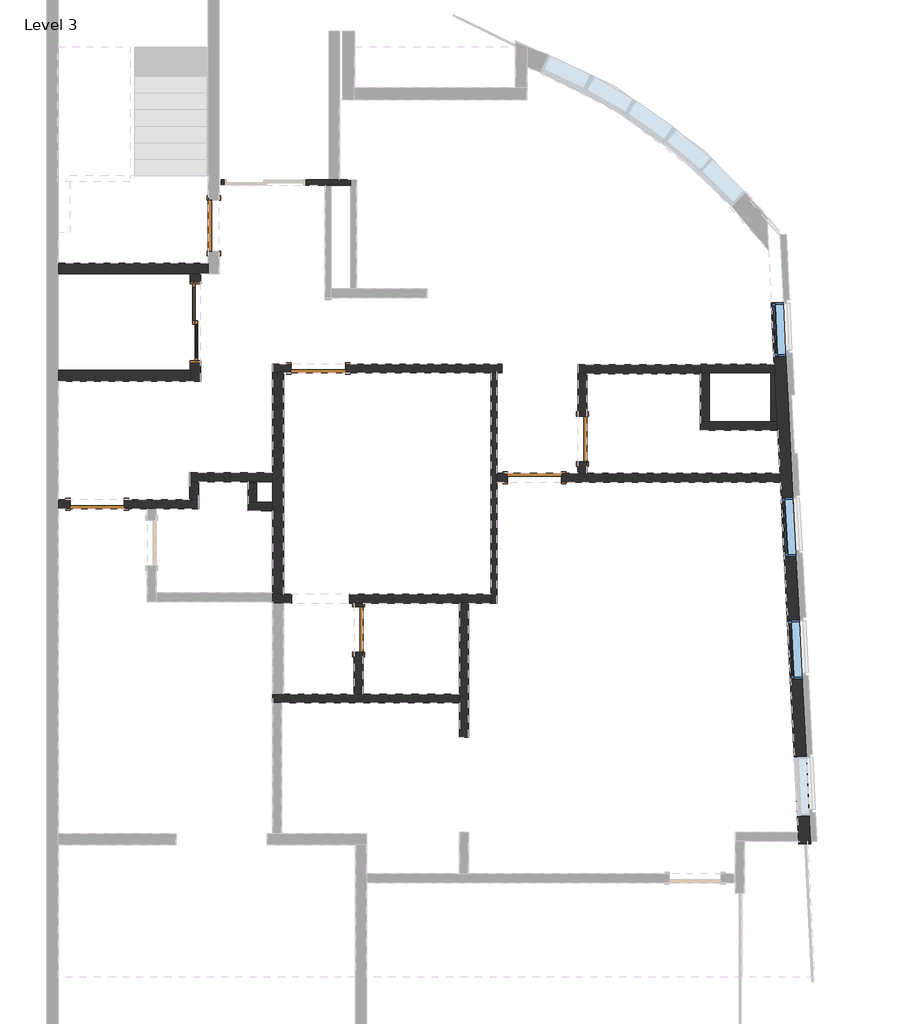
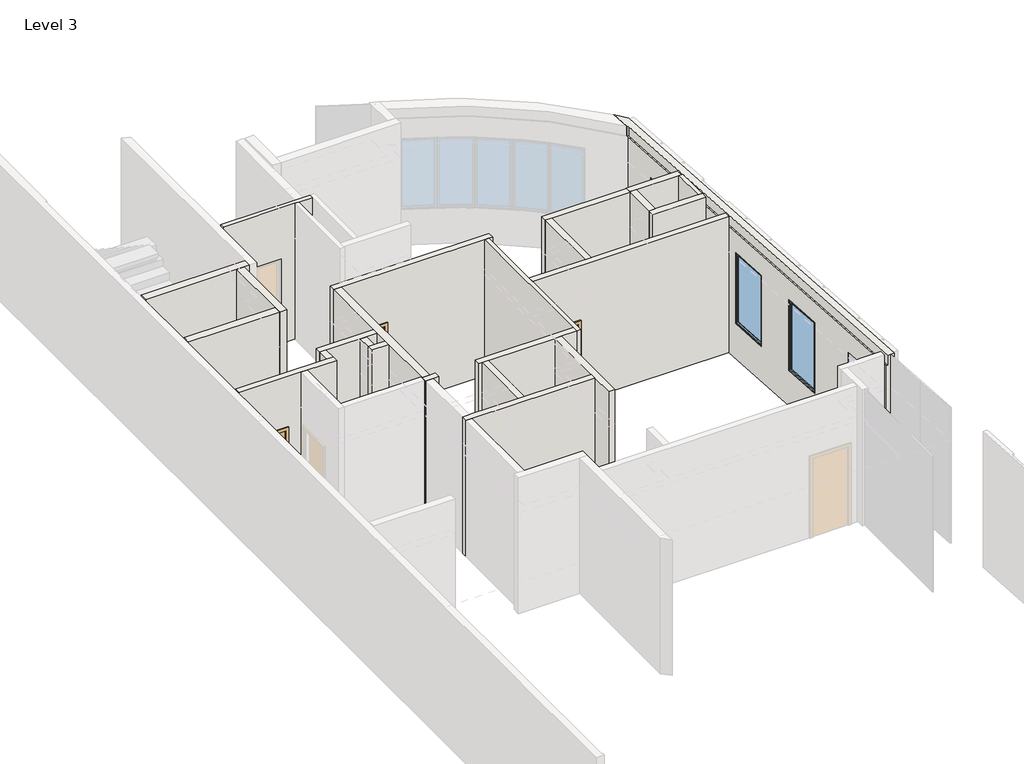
# One storey, part 3 of 5: 25 walls, 7 doors, 3 windows.
"""IFC4 building model written with IfcOpenShell, lengths in millimetres."""

from ifc_helpers import new_model, si_unit, frame, origin, place, context, project, spatial, polyline, circle_curve, outline, extrude, faceted_brep, transform, mapped, element, save
from ifc_brep_helpers import plane_surface, cylinder_surface, revolved_surface, advanced_brep
from components import m_single_flush_0762_x_2134mm_1533e4c5, m_single_flush_0762_x_2134mm_8c18b9de, m_single_flush_0864_x_2032mm_7823a673, m_single_flush_0915_x_2032mm_11c03dd0, m_single_flush_0915_x_2134mm_138fd904, sliding_door_2_panel_aus_f73f6a40, m_fixed_0915_x_1830mm_5d6e8bc1, m_fixed_1000_x_1830mm_2_3397196e

model = new_model("IFC4")

# Units and contexts
model_context = context("Model", 3, world=origin())
ifc_project = project(units=[si_unit("LENGTHUNIT", "METRE", prefix="MILLI")], contexts=[model_context])

# Site, building, storey
site = spatial("IfcSite", under=ifc_project)
building = spatial("IfcBuilding", under=site)
storey = spatial("IfcBuildingStorey", under=building, Name="Level 3", Elevation=11500.0)

# Doors
placement = place(None, origin())
m_single_flush_0762_x_2134mm_shape = m_single_flush_0762_x_2134mm_1533e4c5(model_context)
element("IfcDoor", 1, ObjectType="M_Single-Flush : 0762 x 2134mm", at=placement, inside=storey, context=model_context, shape_type="MappedRepresentation", body=[
    mapped(m_single_flush_0762_x_2134mm_shape, transform((8794.9578779, 5730.2927029, 11500.0), x_axis=(0.0, -1.0, 0.0), y_axis=(1.0, 0.0, 0.0), z_axis=(0.0, 0.0, 1.0))),
])
m_single_flush_0762_x_2134mm_2_shape = m_single_flush_0762_x_2134mm_8c18b9de(model_context)
element("IfcDoor", 2, ObjectType="M_Single-Flush : 0762 x 2134mm", at=placement, inside=storey, context=model_context, shape_type="MappedRepresentation", body=[
    mapped(m_single_flush_0762_x_2134mm_2_shape, transform((5014.9578779, 2515.8778064, 11500.0), x_axis=(0.0, 1.0, 0.0), y_axis=(-1.0, 0.0, 0.0), z_axis=(0.0, 0.0, 1.0))),
])
m_single_flush_0864_x_2032mm_shape = m_single_flush_0864_x_2032mm_7823a673(model_context)
element("IfcDoor", 3, ObjectType="M_Single-Flush : 0864 x 2032mm", at=placement, inside=storey, context=model_context, shape_type="MappedRepresentation", body=[
    mapped(m_single_flush_0864_x_2032mm_shape, transform((2571.8607589, 9328.8748746, 11500.0), x_axis=(0.0, -1.0, 0.0), y_axis=(1.0, 0.0, 0.0), z_axis=(0.0, 0.0, 1.0))),
])
m_single_flush_0915_x_2032mm_shape = m_single_flush_0915_x_2032mm_11c03dd0(model_context)
element("IfcDoor", 4, ObjectType="M_Single-Flush : 0915 x 2032mm", at=placement, inside=storey, context=model_context, shape_type="MappedRepresentation", body=[
    mapped(m_single_flush_0915_x_2032mm_shape, transform((7987.4578779, 5074.2927029, 11500.0), x_axis=(-1.0, 0.0, 0.0), y_axis=(0.0, -1.0, 0.0), z_axis=(0.0, 0.0, 1.0))),
])
m_single_flush_0915_x_2134mm_shape = m_single_flush_0915_x_2134mm_138fd904(model_context)
element("IfcDoor", 5, ObjectType="M_Single-Flush : 0915 x 2134mm", at=placement, inside=storey, context=model_context, shape_type="MappedRepresentation", body=[
    mapped(m_single_flush_0915_x_2134mm_shape, transform((607.4578696, 4631.8830582, 11500.0), x_axis=(-1.0, 0.0, 0.0), y_axis=(0.0, -1.0, 0.0), z_axis=(0.0, 0.0, 1.0))),
])
element("IfcDoor", 6, ObjectType="M_Single-Flush : 0915 x 2134mm", at=placement, inside=storey, context=model_context, shape_type="MappedRepresentation", body=[
    mapped(m_single_flush_0915_x_2134mm_shape, transform((4337.4578779, 6919.2927825, 11500.0), x_axis=(-1.0, 0.0, 0.0), y_axis=(0.0, -1.0, 0.0), z_axis=(0.0, 0.0, 1.0))),
])
sliding_door_2_panel_aus_shape = sliding_door_2_panel_aus_f73f6a40(model_context)
element("IfcDoor", 7, ObjectType="Sliding Door - 2 Panel (AUS) : elavator door", at=placement, inside=storey, context=model_context, shape_type="MappedRepresentation", body=[
    mapped(sliding_door_2_panel_aus_shape, transform((2260.0654712, 7782.6328884, 11500.0), x_axis=(0.0, -1.0, 0.0), y_axis=(1.0, 0.0, 0.0), z_axis=(0.0, 0.0, 1.0))),
])

# Walls
element("IfcWall", 8, ObjectType="Generic - 15cm-granit&gypsum", at=placement, inside=storey, context=model_context, shape_type="SweptSolid", body=[
    extrude(outline(polyline([(5349.2927029, 13634.0), (5349.2927029, 11500.0), (5149.2927029, 11500.0), (5149.2927029, 15000.0), (6830.3684627, 15000.0), (6830.3684627, 11500.0), (6111.2927029, 11500.0), (6111.2927029, 13634.0), (5349.2927029, 13634.0)])), frame((8719.9578779, 0.0, 0.0), z_axis=(1.0, 0.0, 0.0), x_axis=(0.0, 1.0, 0.0)), (0.0, 0.0, 1.0), 150.0),
])
element("IfcWall", 9, ObjectType="Generic - 15cm-gypsu-2boith", at=placement, inside=storey, context=model_context, shape_type="Brep", body=[
    faceted_brep([(12034.2942913, 6994.2927825, 11500.0), (10782.6929286, 6994.2927825, 11500.0), (10782.6929286, 6994.2927825, 15000.0), (12034.2942913, 6994.2927825, 15000.0), (12041.9294162, 6844.2927825, 11500.0), (12041.9294162, 6844.2927825, 15000.0), (11974.9265269, 6844.2927825, 15000.0), (10938.049349, 6844.2927825, 15000.0), (10788.049349, 6844.2927825, 15000.0), (10782.6929286, 6844.2927825, 15000.0), (10782.6929286, 6844.2927825, 11500.0), (10788.049349, 6844.2927825, 11500.0), (10938.049349, 6844.2927825, 11500.0), (11974.9265269, 6844.2927825, 11500.0), (10782.6929286, 6980.3684627, 11500.0), (10782.6929286, 6980.3684627, 15000.0)], [[[0, 1, 2, 3]], [[4, 5, 6, 7, 8, 9, 10, 11, 12, 13]], [[1, 0, 4, 13, 12, 11, 10, 14]], [[2, 1, 14, 10, 9, 15]], [[3, 2, 15, 9, 8, 7, 6, 5]], [[0, 3, 5, 4]]]),
])
element("IfcWall", 10, ObjectType="Generic - 15cm-granit&gypsum", at=placement, inside=storey, context=model_context, shape_type="Brep", body=[
    faceted_brep([(7529.9578779, 5149.2927029, 13532.0), (7529.9578779, 5149.2927029, 11500.0), (7349.9578779, 5149.2927029, 11500.0), (7349.9578779, 5149.2927029, 15000.0), (8719.9578779, 5149.2927029, 15000.0), (8869.9578779, 5149.2927029, 15000.0), (12128.2063311, 5149.2927029, 15000.0), (12128.2063311, 5149.2927029, 11500.0), (8869.9578779, 5149.2927029, 11500.0), (8719.9578779, 5149.2927029, 11500.0), (8444.9578779, 5149.2927029, 11500.0), (8444.9578779, 5149.2927029, 13532.0), (7349.9578779, 4999.2927029, 11500.0), (7529.9578779, 4999.2927029, 11500.0), (7529.9578779, 4999.2927029, 13532.0), (8444.9578779, 4999.2927029, 13532.0), (8444.9578779, 4999.2927029, 11500.0), (12135.8414559, 4999.2927029, 11500.0), (12135.8414559, 4999.2927029, 15000.0), (7349.9578779, 4999.2927029, 15000.0)], [[[0, 1, 2, 3, 4, 5, 6, 7, 8, 9, 10, 11]], [[12, 13, 14, 15, 16, 17, 18, 19]], [[2, 1, 13, 12]], [[10, 9, 8, 7, 17, 16]], [[6, 5, 4, 3, 19, 18]], [[7, 6, 18, 17]], [[3, 2, 12, 19]], [[14, 13, 1, 0]], [[15, 14, 0, 11]], [[16, 15, 11, 10]]]),
])
element("IfcWall", 11, ObjectType="Generic - 10cm-gypsu-2boith", at=placement, inside=storey, context=model_context, shape_type="Brep", body=[
    faceted_brep([(7249.9578779, 6844.2927825, 11500.0), (7249.9578779, 3106.8778064, 11500.0), (7249.9578779, 2956.8778064, 11500.0), (7249.9578779, 2956.8778064, 15000.0), (7249.9578779, 3106.8778064, 15000.0), (7249.9578779, 6844.2927825, 15000.0), (7349.9578779, 6844.2927825, 11500.0), (7349.9578779, 6844.2927825, 15000.0), (7349.9578779, 5149.2927029, 15000.0), (7349.9578779, 4999.2927029, 15000.0), (7349.9578779, 2956.8778064, 15000.0), (7349.9578779, 2956.8778064, 11500.0), (7349.9578779, 4999.2927029, 11500.0), (7349.9578779, 5149.2927029, 11500.0)], [[[0, 1, 2, 3, 4, 5]], [[6, 7, 8, 9, 10, 11, 12, 13]], [[2, 1, 0, 6, 13, 12, 11]], [[5, 4, 3, 10, 9, 8, 7]], [[3, 2, 11, 10]], [[0, 5, 7, 6]]]),
])
element("IfcWall", 12, ObjectType="Generic - 15cm-granit&gypsum", at=placement, inside=storey, context=model_context, shape_type="Brep", body=[
    faceted_brep([(7249.9578779, 3106.8778064, 11500.0), (4862.6578779, 3106.8778064, 11500.0), (4862.6578779, 3106.8778064, 15000.0), (7249.9578779, 3106.8778064, 15000.0), (7249.9578779, 2956.8778064, 11500.0), (7249.9578779, 2956.8778064, 15000.0), (6869.9578779, 2956.8778064, 15000.0), (6719.9578779, 2956.8778064, 15000.0), (5089.9578779, 2956.8778064, 15000.0), (4939.9578779, 2956.8778064, 15000.0), (4862.6578779, 2956.8778064, 15000.0), (4862.6578779, 2956.8778064, 11500.0), (4939.9578779, 2956.8778064, 11500.0), (5089.9578779, 2956.8778064, 11500.0), (6719.9578779, 2956.8778064, 11500.0), (6869.9578779, 2956.8778064, 11500.0)], [[[0, 1, 2, 3]], [[4, 5, 6, 7, 8, 9, 10, 11, 12, 13, 14, 15]], [[1, 0, 4, 15, 14, 13, 12, 11]], [[2, 1, 11, 10]], [[3, 2, 10, 9, 8, 7, 6, 5]], [[0, 3, 5, 4]]]),
])
element("IfcWall", 13, ObjectType="Generic - 15cm-granit&gypsum", at=placement, inside=storey, context=model_context, shape_type="Brep", body=[
    faceted_brep([(6719.9578779, 1426.8778064, 11500.0), (5089.9578779, 1426.8778064, 11500.0), (4939.9578779, 1426.8778064, 11500.0), (3749.9578779, 1426.8778064, 11500.0), (3569.9578779, 1426.8778064, 11500.0), (3569.9578779, 1426.8778064, 15000.0), (3749.9578779, 1426.8778064, 15000.0), (4939.9578779, 1426.8778064, 15000.0), (5089.9578779, 1426.8778064, 15000.0), (6719.9578779, 1426.8778064, 15000.0), (6719.9578779, 1276.8778064, 11500.0), (6719.9578779, 1276.8778064, 15000.0), (3719.9578779, 1276.8778064, 15000.0), (3569.9578779, 1276.8778064, 15000.0), (3569.9578779, 1276.8778064, 11500.0), (3719.9578779, 1276.8778064, 11500.0)], [[[0, 1, 2, 3, 4, 5, 6, 7, 8, 9]], [[10, 11, 12, 13, 14, 15]], [[4, 3, 2, 1, 0, 10, 15, 14]], [[9, 8, 7, 6, 5, 13, 12, 11]], [[0, 9, 11, 10]], [[5, 4, 14, 13]]]),
])
element("IfcWall", 14, ObjectType="Generic - 15cm-granit&gypsum", at=placement, inside=storey, context=model_context, shape_type="Brep", body=[
    faceted_brep([(6719.9578779, 2956.8778064, 11500.0), (6719.9578779, 1426.8778064, 11500.0), (6719.9578779, 1276.8778064, 11500.0), (6719.9578779, 696.0452702, 11500.0), (6719.9578779, 696.0452702, 15000.0), (6719.9578779, 1276.8778064, 15000.0), (6719.9578779, 1426.8778064, 15000.0), (6719.9578779, 2956.8778064, 15000.0), (6869.9578779, 2956.8778064, 11500.0), (6869.9578779, 2956.8778064, 15000.0), (6869.9578779, 696.0452702, 15000.0), (6869.9578779, 696.0452702, 11500.0)], [[[0, 1, 2, 3, 4, 5, 6, 7]], [[8, 9, 10, 11]], [[3, 2, 1, 0, 8, 11]], [[4, 3, 11, 10]], [[7, 6, 5, 4, 10, 9]], [[0, 7, 9, 8]]]),
])
element("IfcWall", 15, ObjectType="Generic - 18cm-gypsu-2boith 2", at=placement, inside=storey, context=model_context, shape_type="Brep", body=[
    faceted_brep([(3569.9578779, 6844.2927825, 11500.0), (3569.9578779, 5156.8860701, 11500.0), (3569.9578779, 5006.8860701, 11500.0), (3569.9578779, 4666.8864855, 11500.0), (3569.9578779, 4516.8864855, 11500.0), (3569.9578779, 3106.8778064, 11500.0), (3569.9578779, 3106.8778064, 15000.0), (3569.9578779, 4516.8864855, 15000.0), (3569.9578779, 4666.8864855, 15000.0), (3569.9578779, 5006.8860701, 15000.0), (3569.9578779, 5156.8860701, 15000.0), (3569.9578779, 6844.2927825, 15000.0), (3749.9578779, 6844.2927825, 11500.0), (3749.9578779, 6844.2927825, 15000.0), (3749.9578779, 3106.8778064, 15000.0), (3749.9578779, 3106.8778064, 11500.0)], [[[0, 1, 2, 3, 4, 5, 6, 7, 8, 9, 10, 11]], [[12, 13, 14, 15]], [[5, 4, 3, 2, 1, 0, 12, 15]], [[11, 10, 9, 8, 7, 6, 14, 13]], [[6, 5, 15, 14]], [[0, 11, 13, 12]]]),
])
element("IfcWall", 16, ObjectType="Generic - 10cm-gypsu-2boith", at=placement, inside=storey, context=model_context, shape_type="Brep", body=[
    faceted_brep([(2699.9587442, 10106.8748959, 11500.0), (2699.9587442, 10106.8748959, 15000.0), (4519.9587688, 10106.8748959, 15000.0), (4699.9587688, 10106.8748959, 15000.0), (4879.9402277, 10106.8748959, 15000.0), (4879.9402277, 10106.8748959, 11500.0), (4699.9587688, 10106.8748959, 11500.0), (4519.9587688, 10106.8748959, 11500.0), (4129.6769958, 10106.8748959, 11500.0), (4129.6769958, 10106.8748959, 13683.0), (2749.6769958, 10106.8748959, 13683.0), (2749.6769958, 10106.8748959, 11500.0), (2699.9587442, 10006.8748959, 15000.0), (2699.9587442, 10006.8748959, 11500.0), (2749.6769958, 10006.8748959, 11500.0), (2749.6769958, 10006.8748959, 13683.0), (4129.6769958, 10006.8748959, 13683.0), (4129.6769958, 10006.8748959, 11500.0), (4449.2779066, 10006.8748959, 11500.0), (4549.2779066, 10006.8748959, 11500.0), (4879.9402277, 10006.8748959, 11500.0), (4879.9402277, 10006.8748959, 15000.0), (4549.2779066, 10006.8748959, 15000.0), (4449.2779066, 10006.8748959, 15000.0)], [[[0, 1, 2, 3, 4, 5, 6, 7, 8, 9, 10, 11]], [[12, 13, 14, 15, 16, 17, 18, 19, 20, 21, 22, 23]], [[13, 0, 11, 14]], [[5, 20, 19, 18, 17, 8, 7, 6]], [[1, 0, 13, 12]], [[4, 3, 2, 1, 12, 23, 22, 21]], [[5, 4, 21, 20]], [[16, 9, 8, 17]], [[9, 16, 15, 10]], [[10, 15, 14, 11]]]),
])
element("IfcWall", 17, ObjectType="Generic - 18cm-gypsu-2boith 2", at=placement, inside=storey, context=model_context, shape_type="SweptSolid", body=[
    extrude(outline(polyline([(-50.0421304, 8696.8748746), (2481.8607589, 8696.8748746), (2481.8607589, 8516.8748746), (-50.0421304, 8516.8748746), (-50.0421304, 8696.8748746)])), frame((0.0, 0.0, 11500.0), z_axis=(0.0, 0.0, 1.0), x_axis=(1.0, 0.0, 0.0)), (0.0, 0.0, 1.0), 3500.0),
])
element("IfcWall", 18, ObjectType="Generic - 18cm-gypsu-2boith 2", at=placement, inside=storey, context=model_context, shape_type="Brep", body=[
    faceted_brep([(2170.0654712, 6706.8748838, 15000.0), (2170.0654712, 6886.8748838, 15000.0), (2170.0654712, 8506.8748906, 15000.0), (2170.0654712, 8506.8748906, 11500.0), (2170.0654712, 8386.8748872, 11500.0), (2170.0654712, 8386.8748872, 13683.0), (2170.0654712, 7006.8748872, 13683.0), (2170.0654712, 7006.8748872, 11500.0), (2170.0654712, 6886.8748838, 11500.0), (2170.0654712, 6706.8748838, 11500.0), (2350.0654712, 8506.8748906, 15000.0), (2350.0654712, 6706.8748838, 15000.0), (2350.0654712, 6706.8748838, 11500.0), (2350.0654712, 7006.8748872, 11500.0), (2350.0654712, 7006.8748872, 13683.0), (2350.0654712, 8386.8748872, 13683.0), (2350.0654712, 8386.8748872, 11500.0), (2350.0654712, 8506.8748906, 11500.0)], [[[0, 1, 2, 3, 4, 5, 6, 7, 8, 9]], [[10, 11, 12, 13, 14, 15, 16, 17]], [[3, 17, 16, 4]], [[12, 9, 8, 7, 13]], [[2, 1, 0, 11, 10]], [[3, 2, 10, 17]], [[0, 9, 12, 11]], [[15, 5, 4, 16]], [[5, 15, 14, 6]], [[6, 14, 13, 7]]]),
])
element("IfcWall", 19, ObjectType="Generic - 18cm-gypsu-2boith 2", at=placement, inside=storey, context=model_context, shape_type="SweptSolid", body=[
    extrude(outline(polyline([(-50.0421304, 6886.8748838), (2170.0654712, 6886.8748838), (2170.0654712, 6706.8748838), (-50.0421304, 6706.8748838), (-50.0421304, 6886.8748838)])), frame((0.0, 0.0, 11500.0), z_axis=(0.0, 0.0, 1.0), x_axis=(1.0, 0.0, 0.0)), (0.0, 0.0, 1.0), 3500.0),
])
element("IfcWall", 20, ObjectType="Generic - 15cm-granit&gypsum", at=placement, inside=storey, context=model_context, shape_type="Brep", body=[
    faceted_brep([(12077.3702251, 6025.0705769, 11500.0), (12074.9265269, 6025.0705769, 11500.0), (11974.9265269, 6025.0705769, 11500.0), (10938.049349, 6025.0705769, 11500.0), (10788.049349, 6025.0705769, 11500.0), (10788.049349, 6025.0705769, 15000.0), (10938.049349, 6025.0705769, 15000.0), (11974.9265269, 6025.0705769, 15000.0), (12074.9265269, 6025.0705769, 15000.0), (12077.3702251, 6025.0705769, 15000.0), (12077.3702251, 5875.0705769, 11500.0), (12077.3702251, 5875.0705769, 15000.0), (10788.049349, 5875.0705769, 15000.0), (10788.049349, 5875.0705769, 11500.0)], [[[0, 1, 2, 3, 4, 5, 6, 7, 8, 9]], [[10, 11, 12, 13]], [[4, 3, 2, 1, 0, 10, 13]], [[9, 8, 7, 6, 5, 12, 11]], [[0, 9, 11, 10]], [[5, 4, 13, 12]]]),
])
element("IfcWall", 21, ObjectType="Generic - 15cm-granit&gypsum", at=placement, inside=storey, context=model_context, shape_type="SweptSolid", body=[
    extrude(outline(polyline([(10938.049349, 6844.2927825), (10938.049349, 6025.0705769), (10788.049349, 6025.0705769), (10788.049349, 6844.2927825), (10938.049349, 6844.2927825)])), frame((0.0, 0.0, 11500.0), z_axis=(0.0, 0.0, 1.0), x_axis=(1.0, 0.0, 0.0)), (0.0, 0.0, 1.0), 3500.0),
])
element("IfcWall", 22, ObjectType="Generic - 10cm-gypsu-2boith", at=placement, inside=storey, context=model_context, shape_type="Brep", body=[
    faceted_brep([(12074.9265269, 6025.0705769, 11500.0), (12074.9265269, 6844.2927825, 11500.0), (12074.9265269, 6844.2927825, 15000.0), (12074.9265269, 6025.0705769, 15000.0), (11974.9265269, 6025.0705769, 11500.0), (11974.9265269, 6025.0705769, 15000.0), (11974.9265269, 6844.2927825, 15000.0), (11974.9265269, 6844.2927825, 11500.0), (12041.9294162, 6844.2927825, 11500.0), (12041.9294162, 6844.2927825, 15000.0)], [[[0, 1, 2, 3]], [[4, 5, 6, 7]], [[1, 0, 4, 7, 8]], [[3, 2, 9, 6, 5]], [[0, 3, 5, 4]], [[2, 1, 8, 7, 6, 9]]]),
])
element("IfcWall", 23, ObjectType="Generic - 15cm-granit&gypsum", at=placement, inside=storey, context=model_context, shape_type="SweptSolid", body=[
    extrude(outline(polyline([(2956.8778064, 11500.0), (2896.8778064, 11500.0), (2896.8778064, 13634.0), (2134.8778064, 13634.0), (2134.8778064, 11500.0), (1426.8778064, 11500.0), (1426.8778064, 15000.0), (2956.8778064, 15000.0), (2956.8778064, 11500.0)])), frame((4939.9578779, 0.0, 0.0), z_axis=(1.0, 0.0, 0.0), x_axis=(0.0, 1.0, 0.0)), (0.0, 0.0, 1.0), 150.0),
])
element("IfcWall", 24, ObjectType="Generic - 15cm-granit&gypsum", at=placement, inside=storey, context=model_context, shape_type="Brep", body=[
    faceted_brep([(-50.0421304, 4556.8830582, 11500.0), (149.9578696, 4556.8830582, 11500.0), (149.9578696, 4556.8830582, 13634.0), (1064.9578696, 4556.8830582, 13634.0), (1064.9578696, 4556.8830582, 11500.0), (1449.9578776, 4556.8830582, 11500.0), (1599.9578776, 4556.8830582, 11500.0), (2319.9578779, 4556.8830582, 11500.0), (2319.9578779, 4556.8830582, 15000.0), (1599.9578776, 4556.8830582, 15000.0), (1449.9578776, 4556.8830582, 15000.0), (-50.0421304, 4556.8830582, 15000.0), (149.9578696, 4706.8830582, 13634.0), (149.9578696, 4706.8830582, 11500.0), (-50.0421304, 4706.8830582, 11500.0), (-50.0421304, 4706.8830582, 15000.0), (2169.9578779, 4706.8830582, 15000.0), (2319.9578779, 4706.8830582, 15000.0), (2319.9578779, 4706.8830582, 11500.0), (2169.9578779, 4706.8830582, 11500.0), (1064.9578696, 4706.8830582, 11500.0), (1064.9578696, 4706.8830582, 13634.0)], [[[0, 1, 2, 3, 4, 5, 6, 7, 8, 9, 10, 11]], [[12, 13, 14, 15, 16, 17, 18, 19, 20, 21]], [[14, 13, 1, 0]], [[20, 19, 18, 7, 6, 5, 4]], [[11, 10, 9, 8, 17, 16, 15]], [[0, 11, 15, 14]], [[8, 7, 18, 17]], [[2, 1, 13, 12]], [[3, 2, 12, 21]], [[4, 3, 21, 20]]]),
])
element("IfcWall", 25, ObjectType="Generic - 15cm-granit&gypsum", at=placement, inside=storey, context=model_context, shape_type="Brep", body=[
    faceted_brep([(2169.9578779, 5006.8860701, 11500.0), (2319.9578779, 5006.8860701, 11500.0), (3569.9578779, 5006.8860701, 11500.0), (3569.9578779, 5006.8860701, 15000.0), (2319.9578779, 5006.8860701, 15000.0), (2169.9578779, 5006.8860701, 15000.0), (2169.9578779, 5156.8860701, 11500.0), (2169.9578779, 5156.8860701, 15000.0), (3569.9578779, 5156.8860701, 15000.0), (3569.9578779, 5156.8860701, 11500.0)], [[[0, 1, 2, 3, 4, 5]], [[6, 7, 8, 9]], [[2, 1, 0, 6, 9]], [[5, 4, 3, 8, 7]], [[0, 5, 7, 6]], [[3, 2, 9, 8]]]),
])
element("IfcWall", 26, ObjectType="Generic - 15cm-granit&gypsum", at=placement, inside=storey, context=model_context, shape_type="SweptSolid", body=[
    extrude(outline(polyline([(2319.9578779, 5006.8860701), (2319.9578779, 4706.8830582), (2169.9578779, 4706.8830582), (2169.9578779, 5006.8860701), (2319.9578779, 5006.8860701)])), frame((0.0, 0.0, 11500.0), z_axis=(0.0, 0.0, 1.0), x_axis=(1.0, 0.0, 0.0)), (0.0, 0.0, 1.0), 3500.0),
])
element("IfcWall", 27, ObjectType="Generic - 15cm-granit&gypsum", at=placement, inside=storey, context=model_context, shape_type="Brep", body=[
    faceted_brep([(3149.9574416, 4516.8864855, 11500.0), (3569.9578779, 4516.8864855, 11500.0), (3569.9578779, 4516.8864855, 15000.0), (3149.9574416, 4516.8864855, 15000.0), (3149.9574416, 4666.8864855, 11500.0), (3149.9574416, 4666.8864855, 15000.0), (3299.9574416, 4666.8864855, 15000.0), (3569.9578779, 4666.8864855, 15000.0), (3569.9578779, 4666.8864855, 11500.0), (3299.9574416, 4666.8864855, 11500.0)], [[[0, 1, 2, 3]], [[4, 5, 6, 7, 8, 9]], [[1, 0, 4, 9, 8]], [[3, 2, 7, 6, 5]], [[2, 1, 8, 7]], [[0, 3, 5, 4]]]),
])
element("IfcWall", 28, ObjectType="Generic - 15cm-granit&gypsum", at=placement, inside=storey, context=model_context, shape_type="SweptSolid", body=[
    extrude(outline(polyline([(3149.9574416, 4666.8864855), (3149.9574416, 4986.8860701), (3299.9574416, 4986.8860701), (3299.9574416, 4666.8864855), (3149.9574416, 4666.8864855)])), frame((0.0, 0.0, 11500.0), z_axis=(0.0, 0.0, 1.0), x_axis=(1.0, 0.0, 0.0)), (0.0, 0.0, 1.0), 3500.0),
])
element("IfcWall", 29, ObjectType="Generic - 15cm-gypsu-2boith", at=placement, inside=storey, context=model_context, shape_type="Brep", body=[
    faceted_brep([(3879.9578779, 6994.2927825, 13634.0), (3879.9578779, 6994.2927825, 11500.0), (3569.9578779, 6994.2927825, 11500.0), (3569.9578779, 6994.2927825, 15000.0), (7439.9578779, 6994.2927825, 15000.0), (7439.9578779, 6994.2927825, 11500.0), (4794.9578779, 6994.2927825, 11500.0), (4794.9578779, 6994.2927825, 13634.0), (3569.9578779, 6844.2927825, 11500.0), (3749.9578779, 6844.2927825, 11500.0), (3879.9578779, 6844.2927825, 11500.0), (3879.9578779, 6844.2927825, 13634.0), (4794.9578779, 6844.2927825, 13634.0), (4794.9578779, 6844.2927825, 11500.0), (7249.9578779, 6844.2927825, 11500.0), (7349.9578779, 6844.2927825, 11500.0), (7439.9578779, 6844.2927825, 11500.0), (7439.9578779, 6844.2927825, 15000.0), (7349.9578779, 6844.2927825, 15000.0), (7249.9578779, 6844.2927825, 15000.0), (3749.9578779, 6844.2927825, 15000.0), (3569.9578779, 6844.2927825, 15000.0)], [[[0, 1, 2, 3, 4, 5, 6, 7]], [[8, 9, 10, 11, 12, 13, 14, 15, 16, 17, 18, 19, 20, 21]], [[6, 5, 16, 15, 14, 13]], [[2, 1, 10, 9, 8]], [[4, 3, 21, 20, 19, 18, 17]], [[5, 4, 17, 16]], [[11, 10, 1, 0]], [[12, 11, 0, 7]], [[13, 12, 7, 6]], [[3, 2, 8, 21]]]),
])
element("IfcWall", 30, ObjectType="Generic - 15cm-granit&gypsum", at=placement, inside=storey, context=model_context, shape_type="Brep", body=[
    faceted_brep([(8719.9578779, 6830.3684627, 11500.0), (8869.9578779, 6830.3684627, 11500.0), (10782.6929286, 6830.3684627, 11500.0), (10782.6929286, 6830.3684627, 15000.0), (8869.9578779, 6830.3684627, 15000.0), (8719.9578779, 6830.3684627, 15000.0), (8719.9578779, 6980.3684627, 11500.0), (8719.9578779, 6980.3684627, 15000.0), (10782.6929286, 6980.3684627, 15000.0), (10782.6929286, 6980.3684627, 11500.0), (10782.6929286, 6844.2927825, 11500.0), (10782.6929286, 6844.2927825, 15000.0)], [[[0, 1, 2, 3, 4, 5]], [[6, 7, 8, 9]], [[2, 1, 0, 6, 9, 10]], [[3, 2, 10, 9, 8, 11]], [[5, 4, 3, 11, 8, 7]], [[0, 5, 7, 6]]]),
])
element("IfcWall", 31, ObjectType="Generic - 15cm-granit&gypsum", at=placement, inside=storey, context=model_context, shape_type="Brep", body=[
    faceted_brep([(3887.2578779, 3106.8778064, 11500.0), (3749.9578779, 3106.8778064, 11500.0), (3569.9578779, 3106.8778064, 11500.0), (3569.9578779, 3106.8778064, 15000.0), (3749.9578779, 3106.8778064, 15000.0), (3887.2578779, 3106.8778064, 15000.0), (3887.2578779, 2956.8778064, 11500.0), (3887.2578779, 2956.8778064, 15000.0), (3749.9578779, 2956.8778064, 15000.0), (3569.9578779, 2956.8778064, 15000.0), (3569.9578779, 2956.8778064, 11500.0), (3749.9578779, 2956.8778064, 11500.0)], [[[0, 1, 2, 3, 4, 5]], [[6, 7, 8, 9, 10, 11]], [[2, 1, 0, 6, 11, 10]], [[5, 4, 3, 9, 8, 7]], [[0, 5, 7, 6]], [[3, 2, 10, 9]]]),
])
element("IfcWall", 32, ObjectType="Generic - 20cm-gypsum", at=placement, inside=storey, context=model_context, shape_type="AdvancedBrep", body=[
    advanced_brep(
    [(11908.3121492, 9469.3435074, 11500.0), (11936.5482631, 8914.6155682, 11500.0), (12034.2942913, 6994.2927825, 11500.0), (12041.9294162, 6844.2927825, 11500.0), (12128.2063311, 5149.2927029, 11500.0), (12135.8414559, 4999.2927029, 11500.0), (12446.8232818, -1110.2699756, 11500.0), (12446.8232818, -1110.2699756, 14759.0), (11936.5482631, 8914.6155682, 14759.0), (11933.8152789, 8968.3078963, 14759.0), (11933.8152789, 8968.3078963, 15000.0), (11908.3121492, 9469.3435074, 15000.0), (11908.3121492, 9469.3435074, 14245.0), (11910.4512496, 9427.3186475, 14245.0), (11910.4512496, 9427.3186475, 14195.0), (11908.3121492, 9469.3435074, 14195.0), (11908.3121492, 9469.3435074, 12425.0), (11910.4512496, 9427.3186475, 12425.0), (11910.4512496, 9427.3186475, 12375.0), (11908.3121492, 9469.3435074, 12375.0), (12422.6623613, -635.6034658, 12400.0), (12371.8273404, 363.1035987, 12400.0), (12371.8273404, 363.1035987, 14230.0), (12422.6623613, -635.6034658, 14230.0), (12305.2334631, 1671.4098532, 12400.0), (12254.3984422, 2670.1169177, 12400.0), (12254.3984422, 2670.1169177, 14230.0), (12305.2334631, 1671.4098532, 14230.0), (12200.0049698, 3738.7334766, 12400.0), (12149.1699489, 4737.4405411, 12400.0), (12149.1699489, 4737.4405411, 14230.0), (12200.0049698, 3738.7334766, 14230.0), (12028.2494319, 7113.0503572, 12400.0), (11981.7353878, 8026.8673212, 12400.0), (11981.7353878, 8026.8673212, 14230.0), (12028.2494319, 7113.0503572, 14230.0), (12646.5646947, -1100.1029714, 11500.0), (12122.2974145, 9199.675158, 11500.0), (12122.2974145, 9199.675158, 12375.0), (12124.5482533, 9155.45508, 12375.0), (12124.5482533, 9155.45508, 12425.0), (12122.2974145, 9199.675158, 12425.0), (12122.2974145, 9199.675158, 14195.0), (12124.5482533, 9155.45508, 14195.0), (12124.5482533, 9155.45508, 14245.0), (12122.2974145, 9199.675158, 14245.0), (12122.2974145, 9199.675158, 15000.0), (12646.5646947, -1100.1029714, 15000.0), (12571.5687533, 373.2706029, 12400.0), (12622.4037742, -625.4364616, 12400.0), (12622.4037742, -625.4364616, 14230.0), (12571.5687533, 373.2706029, 14230.0), (12454.1398551, 2680.2839218, 12400.0), (12504.974876, 1681.5768573, 12400.0), (12504.974876, 1681.5768573, 14230.0), (12454.1398551, 2680.2839218, 14230.0), (12348.9113618, 4747.6075453, 12400.0), (12399.7463827, 3748.9004808, 12400.0), (12399.7463827, 3748.9004808, 14230.0), (12348.9113618, 4747.6075453, 14230.0), (12181.4768007, 8037.0343254, 12400.0), (12227.9908448, 7123.2173614, 12400.0), (12227.9908448, 7123.2173614, 14230.0), (12181.4768007, 8037.0343254, 14230.0), (12476.7844937, -1108.7449249, 15000.0), (12476.7844937, -1108.7449249, 14759.0), (11966.0468245, 8925.2298708, 15000.0), (11966.0468245, 8925.2298708, 14759.0)],
    [
        (0, 1),
        (1, 2),
        (2, 3),
        (3, 4),
        (4, 5),
        (5, 6),
        (6, 7),
        (7, 8),
        (8, 9),
        (9, 10),
        (10, 11),
        (11, 12),
        (12, 13),
        (13, 14),
        (14, 15),
        (15, 16),
        (16, 17),
        (17, 18),
        (18, 19),
        (19, 0),
        (20, 21),
        (21, 22),
        (22, 23),
        (23, 20),
        (24, 25),
        (25, 26),
        (26, 27),
        (27, 24),
        (28, 29),
        (29, 30),
        (30, 31),
        (31, 28),
        (32, 33),
        (33, 34),
        (34, 35),
        (35, 32),
        (36, 37),
        (37, 38),
        (38, 39),
        (39, 40),
        (40, 41),
        (41, 42),
        (42, 43),
        (43, 44),
        (44, 45),
        (45, 46),
        (46, 47),
        (47, 36),
        (48, 49),
        (49, 50),
        (50, 51),
        (51, 48),
        (52, 53),
        (53, 54),
        (54, 55),
        (55, 52),
        (56, 57),
        (57, 58),
        (58, 59),
        (59, 56),
        (60, 61),
        (61, 62),
        (62, 63),
        (63, 60),
        (48, 21),
        (20, 49),
        (51, 22),
        (50, 23),
        (52, 25),
        (24, 53),
        (55, 26),
        (54, 27),
        (56, 29),
        (28, 57),
        (59, 30),
        (58, 31),
        (60, 33),
        (32, 61),
        (63, 34),
        (62, 35),
        (0, 37, circle_curve(frame((4535.6080259, 3399.2748166, 11500.0), z_axis=(0.0, 0.0, -1.0), x_axis=(0.7954529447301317, 0.6060153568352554, 0.0)), 9550.0)),
        (36, 6),
        (47, 64),
        (64, 65),
        (65, 7),
        (46, 11, circle_curve(frame((4535.6080259, 3399.2748166, 15000.0), z_axis=(0.0, 0.0, 1.0), x_axis=(0.7954529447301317, 0.6060153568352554, 0.0)), 9550.0)),
        (10, 66, circle_curve(frame((4535.6080259, 3399.2748166, 15000.0), z_axis=(0.0, 0.0, -1.0), x_axis=(1.0, 0.0, 0.0)), 9260.0)),
        (66, 64),
        (45, 12, circle_curve(frame((4535.6080259, 3399.2748166, 14245.0), z_axis=(0.0, 0.0, 1.0), x_axis=(0.7954529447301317, 0.6060153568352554, 0.0)), 9550.0)),
        (19, 38, circle_curve(frame((4535.6080259, 3399.2748166, 12375.0), z_axis=(0.0, 0.0, -1.0), x_axis=(0.7954529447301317, 0.6060153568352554, 0.0)), 9550.0)),
        (41, 16, circle_curve(frame((4535.6080259, 3399.2748166, 12425.0), z_axis=(0.0, 0.0, 1.0), x_axis=(0.7954529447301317, 0.6060153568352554, 0.0)), 9550.0)),
        (15, 42, circle_curve(frame((4535.6080259, 3399.2748166, 14195.0), z_axis=(0.0, 0.0, -1.0), x_axis=(0.7954529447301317, 0.6060153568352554, 0.0)), 9550.0)),
        (40, 17, circle_curve(frame((4535.6080259, 3399.2748166, 12425.0), z_axis=(0.0, 0.0, 1.0), x_axis=(0.32740306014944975, 0.9448847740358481, 0.0)), 9525.0)),
        (18, 39, circle_curve(frame((4535.6080259, 3399.2748166, 12375.0), z_axis=(0.0, 0.0, -1.0), x_axis=(0.32740306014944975, 0.9448847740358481, 0.0)), 9525.0)),
        (44, 13, circle_curve(frame((4535.6080259, 3399.2748166, 14245.0), z_axis=(0.0, 0.0, 1.0), x_axis=(0.7339562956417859, 0.6791966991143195, 0.0)), 9525.0)),
        (14, 43, circle_curve(frame((4535.6080259, 3399.2748166, 14195.0), z_axis=(0.0, 0.0, -1.0), x_axis=(0.7339562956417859, 0.6791966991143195, 0.0)), 9525.0)),
        (65, 67),
        (67, 9, circle_curve(frame((4535.6080259, 3399.2748166, 14759.0), z_axis=(0.0, 0.0, 1.0), x_axis=(1.0, 0.0, 0.0)), 9260.0)),
        (67, 66),
    ],
    [
        plane_surface(frame((11929.5360205, 9052.3783941, 11500.0), z_axis=(-0.9987070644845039, -0.05083502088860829, 0.0), x_axis=(0.05083502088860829, -0.9987070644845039, 0.0))),
        plane_surface(frame((12129.2774334, 9062.5453983, 11500.0), z_axis=(0.9987070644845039, 0.05083502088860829, 0.0), x_axis=(-0.05083502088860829, 0.9987070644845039, 0.0))),
        plane_surface(frame((12571.5687533, 373.2706029, 12400.0), z_axis=(0.0, 0.0, 1.0), x_axis=(-0.998707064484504, -0.050835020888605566, 0.0))),
        plane_surface(frame((12571.5687533, 373.2706029, 14230.0), z_axis=(0.050835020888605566, -0.998707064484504, 0.0), x_axis=(-0.998707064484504, -0.050835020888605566, 0.0))),
        plane_surface(frame((12622.4037742, -625.4364616, 14230.0), z_axis=(0.0, 0.0, -1.0), x_axis=(-0.998707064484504, -0.050835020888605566, 0.0))),
        plane_surface(frame((12622.4037742, -625.4364616, 12400.0), z_axis=(-0.050835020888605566, 0.998707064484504, 0.0), x_axis=(-0.998707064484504, -0.050835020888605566, 0.0))),
        plane_surface(frame((12454.1398551, 2680.2839218, 12400.0), z_axis=(0.0, 0.0, 1.0), x_axis=(-0.9987070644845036, -0.050835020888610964, 0.0))),
        plane_surface(frame((12454.1398551, 2680.2839218, 14230.0), z_axis=(0.050835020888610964, -0.9987070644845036, 0.0), x_axis=(-0.9987070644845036, -0.050835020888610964, 0.0))),
        plane_surface(frame((12504.974876, 1681.5768573, 14230.0), z_axis=(0.0, 0.0, -1.0), x_axis=(-0.998707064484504, -0.050835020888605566, 0.0))),
        plane_surface(frame((12504.974876, 1681.5768573, 12400.0), z_axis=(-0.050835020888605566, 0.998707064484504, 0.0), x_axis=(-0.998707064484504, -0.050835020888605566, 0.0))),
        plane_surface(frame((12348.9113618, 4747.6075453, 12400.0), z_axis=(0.0, 0.0, 1.0), x_axis=(-0.998707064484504, -0.050835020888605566, 0.0))),
        plane_surface(frame((12348.9113618, 4747.6075453, 14230.0), z_axis=(0.050835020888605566, -0.998707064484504, 0.0), x_axis=(-0.998707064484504, -0.050835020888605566, 0.0))),
        plane_surface(frame((12399.7463827, 3748.9004808, 14230.0), z_axis=(0.0, 0.0, -1.0), x_axis=(-0.998707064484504, -0.050835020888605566, 0.0))),
        plane_surface(frame((12399.7463827, 3748.9004808, 12400.0), z_axis=(-0.05083502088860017, 0.9987070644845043, 0.0), x_axis=(-0.9987070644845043, -0.05083502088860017, 0.0))),
        plane_surface(frame((12181.4768007, 8037.0343254, 12400.0), z_axis=(0.0, 0.0, 1.0), x_axis=(-0.998707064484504, -0.050835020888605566, 0.0))),
        plane_surface(frame((12181.4768007, 8037.0343254, 14230.0), z_axis=(0.050835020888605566, -0.998707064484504, 0.0), x_axis=(-0.998707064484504, -0.050835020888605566, 0.0))),
        plane_surface(frame((12227.9908448, 7123.2173614, 14230.0), z_axis=(0.0, 0.0, -1.0), x_axis=(-0.998707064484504, -0.050835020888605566, 0.0))),
        plane_surface(frame((12227.9908448, 7123.2173614, 12400.0), z_axis=(-0.050835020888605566, 0.998707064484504, 0.0), x_axis=(-0.998707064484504, -0.050835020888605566, 0.0))),
        plane_surface(frame((11929.5360205, 9052.3783941, 11500.0), z_axis=(0.0, 0.0, -1.0), x_axis=(0.9987070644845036, 0.050835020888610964, 0.0))),
        plane_surface(frame((12446.8232818, -1110.2699756, 11500.0), z_axis=(0.050835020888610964, -0.9987070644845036, 0.0), x_axis=(0.9987070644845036, 0.050835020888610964, 0.0))),
        plane_surface(frame((12446.8232818, -1110.2699756, 15000.0), z_axis=(0.0, 0.0, 1.0), x_axis=(0.9987070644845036, 0.050835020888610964, 0.0))),
        cylinder_surface(frame((4535.6080259, 3399.2748166, 11500.0), z_axis=(0.0, 0.0, 1.0), x_axis=(0.7954529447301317, 0.6060153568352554, 0.0)), 9550.0),
        plane_surface(frame((4535.6080259, 3399.2748166, 12425.0), z_axis=(0.0, 0.0, -1.0), x_axis=(0.32740306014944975, 0.9448847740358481, 0.0))),
        plane_surface(frame((4535.6080259, 3399.2748166, 12375.0), z_axis=(0.0, 0.0, 1.0), x_axis=(0.32740306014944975, 0.9448847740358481, 0.0))),
        cylinder_surface(frame((4535.6080259, 3399.2748166, 12400.0), z_axis=(0.0, 0.0, -1.0), x_axis=(0.32740306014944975, 0.9448847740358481, 0.0)), 9525.0),
        plane_surface(frame((4535.6080259, 3399.2748166, 14245.0), z_axis=(0.0, 0.0, -1.0), x_axis=(0.7339562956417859, 0.6791966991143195, 0.0))),
        plane_surface(frame((4535.6080259, 3399.2748166, 14195.0), z_axis=(0.0, 0.0, 1.0), x_axis=(0.7339562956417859, 0.6791966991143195, 0.0))),
        cylinder_surface(frame((4535.6080259, 3399.2748166, 14220.0), z_axis=(0.0, 0.0, -1.0), x_axis=(0.7339562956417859, 0.6791966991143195, 0.0)), 9525.0),
        plane_surface(frame((-80.0421304, 14944.8648867, 14759.0), z_axis=(0.0, 0.0, 1.0), x_axis=(0.9323005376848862, -0.36168454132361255, 0.0))),
        revolved_surface(polyline([(13795.608025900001, 3399.2748166, 14759.0), (13795.608025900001, 3399.2748166, 15000.0)]), (4535.6080259, 3399.2748166, 15000.0), (0.0, 0.0, -1.0)),
        plane_surface(frame((11966.0468245, 8925.2298708, 14759.0), z_axis=(-0.9987070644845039, -0.05083502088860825, 0.0), x_axis=(0.0, 0.0, 1.0))),
    ],
    [
        (0, [[1, 2, 3, 4, 5, 6, 7, 8, 9, 10, 11, 12, 13, 14, 15, 16, 17, 18, 19, 20], [21, 22, 23, 24], [25, 26, 27, 28], [29, 30, 31, 32], [33, 34, 35, 36]]),
        (1, [[37, 38, 39, 40, 41, 42, 43, 44, 45, 46, 47, 48], [49, 50, 51, 52], [53, 54, 55, 56], [57, 58, 59, 60], [61, 62, 63, 64]]),
        (2, [[-49, 65, -21, 66]]),
        (3, [[-52, 67, -22, -65]]),
        (4, [[-51, 68, -23, -67]]),
        (5, [[-50, -66, -24, -68]]),
        (6, [[-53, 69, -25, 70]]),
        (7, [[-56, 71, -26, -69]]),
        (8, [[-55, 72, -27, -71]]),
        (9, [[-54, -70, -28, -72]]),
        (10, [[-57, 73, -29, 74]]),
        (11, [[-60, 75, -30, -73]]),
        (12, [[-59, 76, -31, -75]]),
        (13, [[-58, -74, -32, -76]]),
        (14, [[-61, 77, -33, 78]]),
        (15, [[-64, 79, -34, -77]]),
        (16, [[-63, 80, -35, -79]]),
        (17, [[-62, -78, -36, -80]]),
        (18, [[-6, -5, -4, -3, -2, -1, 81, -37, 82]]),
        (19, [[-48, 83, 84, 85, -7, -82]]),
        (20, [[-47, 86, -11, 87, 88, -83]]),
        (21, [[-86, -46, 89, -12]]),
        (21, [[-81, -20, 90, -38]]),
        (21, [[91, -16, 92, -42]]),
        (22, [[93, -17, -91, -41]]),
        (23, [[94, -39, -90, -19]]),
        (24, [[-93, -40, -94, -18]]),
        (25, [[95, -13, -89, -45]]),
        (26, [[96, -43, -92, -15]]),
        (27, [[-95, -44, -96, -14]]),
        (28, [[97, 98, -9, -8, -85]]),
        (29, [[99, -87, -10, -98]]),
        (30, [[-99, -97, -84, -88]]),
    ],
),
])

# Windows
m_fixed_0915_x_1830mm_shape = m_fixed_0915_x_1830mm_5d6e8bc1(model_context)
element("IfcWindow", 33, ObjectType="M_Fixed : 0915 x 1830mm", at=placement, inside=storey, context=model_context, shape_type="MappedRepresentation", body=[
    mapped(m_fixed_0915_x_1830mm_shape, transform((12117.8463081, 7575.7031965, 12095.0), x_axis=(-0.05083502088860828, 0.9987070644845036, 0.0), y_axis=(-0.9987070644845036, -0.05083502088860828, 0.0), z_axis=(0.0, 0.0, 1.0))),
])
m_fixed_1000_x_1830mm_2_shape = m_fixed_1000_x_1830mm_2_3397196e(model_context)
element("IfcWindow", 34, ObjectType="M_Fixed : 1000 x 1830mm 2", at=placement, inside=storey, context=model_context, shape_type="MappedRepresentation", body=[
    mapped(m_fixed_1000_x_1830mm_2_shape, transform((12392.6698509, 2176.5077428, 12095.0), x_axis=(-0.05083502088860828, 0.9987070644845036, 0.0), y_axis=(-0.9987070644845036, -0.05083502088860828, 0.0), z_axis=(0.0, 0.0, 1.0))),
])
element("IfcWindow", 35, ObjectType="M_Fixed : 1000 x 1830mm 2", at=placement, inside=storey, context=model_context, shape_type="MappedRepresentation", body=[
    mapped(m_fixed_1000_x_1830mm_2_shape, transform((12287.4413577, 4243.8313663, 12095.0), x_axis=(-0.05083502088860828, 0.9987070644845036, 0.0), y_axis=(-0.9987070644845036, -0.05083502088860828, 0.0), z_axis=(0.0, 0.0, 1.0))),
])

save(model, "model.ifc")
